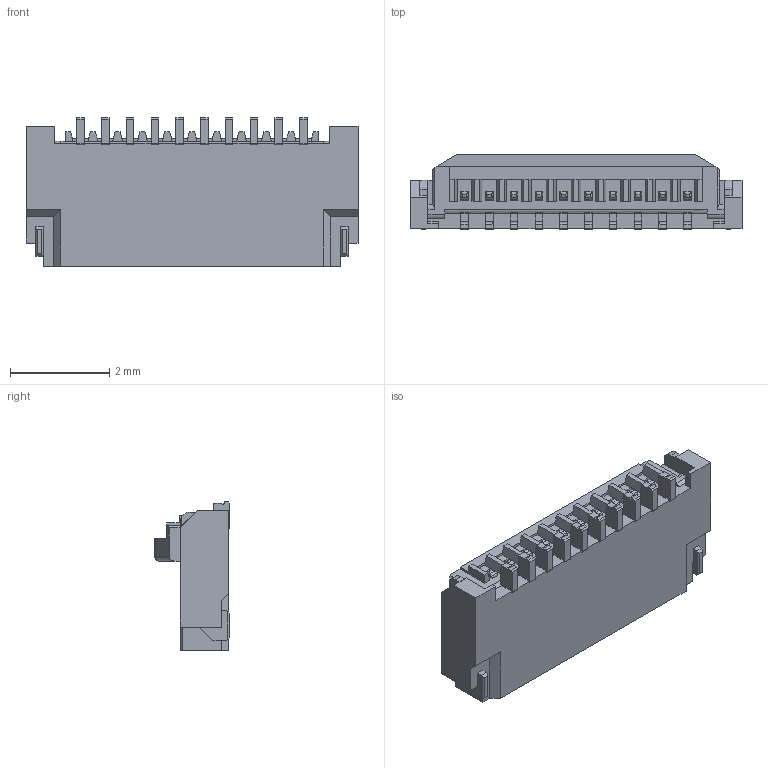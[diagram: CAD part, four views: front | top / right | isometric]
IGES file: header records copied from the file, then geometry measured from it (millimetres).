
Start section: SolidWorks IGES file using analytic representation for surfaces
Bounding box: 6.7 x 1.52 x 3 mm (x, y, z)
Surface area: 67.2 mm2 (no closed solid volume)
Topology: 0 solids, 0 shells, 399 faces, 2618 edges, 2616 vertices
Faces by surface type: bspline 305, revolution 94
